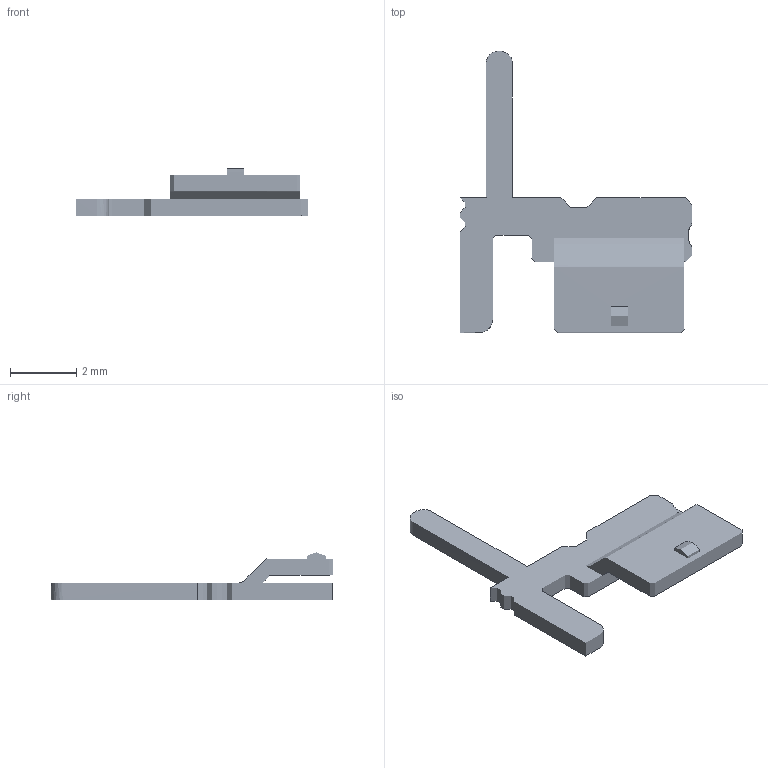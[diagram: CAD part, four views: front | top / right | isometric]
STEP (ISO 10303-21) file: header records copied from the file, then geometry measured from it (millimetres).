
FILE_DESCRIPTION(/* description */ ('STEP AP242 Edition 2','CAx-IF Rec.Pracs.---Representation and Presentation of Product Manufacturing Information (PMI)---4.0---2014-10-13','CAx-IF Rec.Pracs.---3D Tessellated Geometry---0.4---2014-09-14','2;1','CAx-IF Rec.Pracs.---User Defined Attributes---1.5---2016-08-15'),/* implementation_level */ '2;1');
FILE_NAME(/* name */ 'Assembly 1 - Part 105',/* time_stamp */ '2026-03-29T21:14:56Z',/* author */ (''),/* organization */ (''),/* preprocessor_version */ 'ST-DEVELOPER v20',/* originating_system */ 'ONSHAPE BY PTC INC, 1.212',/* authorisation */ ' ');
FILE_SCHEMA (('AP242_MANAGED_MODEL_BASED_3D_ENGINEERING_MIM_LF { 1 0 10303 442 3 1 4 }'));
Length unit declared in the file: metre
Products named in the file (1): Part 105
Bounding box: 7.02 x 8.51 x 1.43 mm (x, y, z)
Surface area: 74.5 mm2 (no closed solid volume)
Topology: 0 solids, 1 shells, 1 faces, 0 edges, 0 vertices
Faces by surface type: other 1
Entity records: 31 total; most frequent: DIRECTION 2, SHAPE_REPRESENTATION_RELATIONSHIP 1, TESSELLATED_SHAPE_REPRESENTATION 1, STYLED_ITEM 1, PRESENTATION_STYLE_ASSIGNMENT 1, SURFACE_STYLE_USAGE 1, SURFACE_SIDE_STYLE 1, SURFACE_STYLE_FILL_AREA 1
